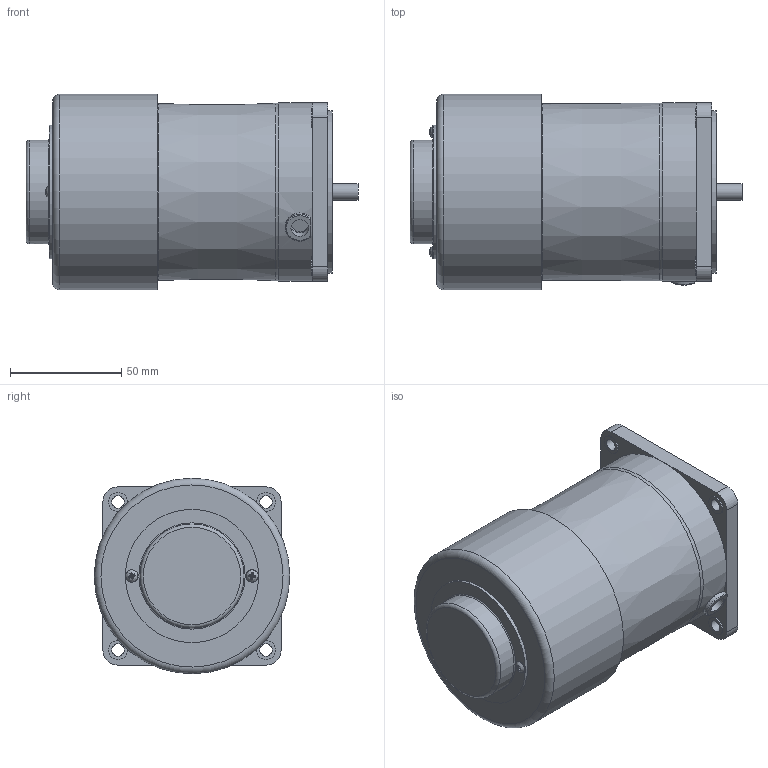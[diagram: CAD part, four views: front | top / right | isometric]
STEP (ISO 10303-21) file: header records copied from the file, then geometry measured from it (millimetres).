
FILE_DESCRIPTION((''),'2;1');
FILE_NAME('D:\STP파일\25W MOTOR\ES TYPE\S8I15G-ES.stp','2013-05-20T16:38:46',('leebh'),(''),'Autodesk Inventor 2011','Autodesk Inventor 2011','');
FILE_SCHEMA(('AUTOMOTIVE_DESIGN { 1 0 10303 214 1 1 1 1 }'));
Length unit declared in the file: millimetre
Products named in the file (1): 부품3
Bounding box: 149.1 x 87.8 x 87.8 mm (x, y, z)
Volume: 692925.2 mm3; surface area: 53185.8 mm2
Topology: 1 solids, 6 shells, 143 faces, 326 edges, 213 vertices
Faces by surface type: plane 86, cylinder 44, torus 10, bspline 2, cone 1
Full cylindrical faces by diameter (mm): 3 x2, 3.5 x2, 5 x1, 5.5 x4, 5.6 x2, 7.2 x1, 8 x1, 8.5 x4, 34 x1, 44.7 x1, 46.7 x1, 47.7 x1, 59.9 x1, 73 x1, 78 x1, 80 x1, 87.8 x1
Entity records: 4107 total; most frequent: CARTESIAN_POINT 964, DIRECTION 632, ORIENTED_EDGE 560, EDGE_CURVE 280, AXIS2_PLACEMENT_3D 241, EDGE_LOOP 213, VERTEX_POINT 205, VECTOR 150
